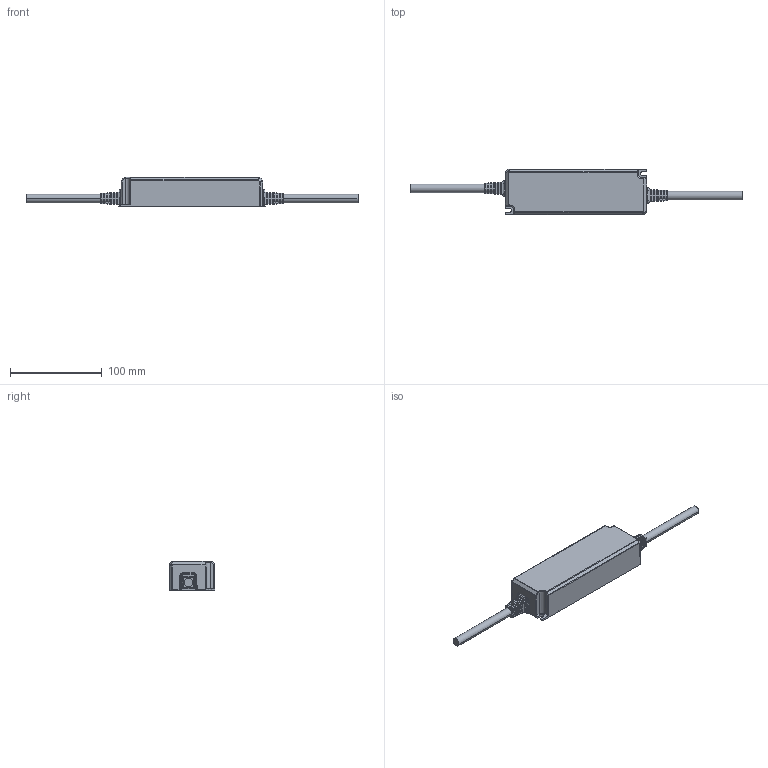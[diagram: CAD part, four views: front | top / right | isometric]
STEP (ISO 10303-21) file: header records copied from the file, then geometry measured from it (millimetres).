
FILE_DESCRIPTION(('Creo Elements/Direct Modeling STEP Export'),'2;1');
FILE_NAME('3D_EDXe_175_24.040.stp','2019-12-18T11:40:11',(''),(''),'PTC Creo Elements/Direct Modeling STEP processor for AP214 (Solid Model)','PTC Creo Elements/Direct Modeling 19.0E 27-Jun-2016 (C) Parametric Technology GmbH','');
FILE_SCHEMA(('AUTOMOTIVE_DESIGN { 1 0 10303 214 1 1 1 1 }'));
Length unit declared in the file: millimetre
Products named in the file (2): K30_2
Assembly tree (1 placements, depth 2):
  K30_2
    K30_2
Bounding box: 362.6 x 50.03 x 32 mm (x, y, z)
Volume: 58359.7 mm3; surface area: 63924.7 mm2
Topology: 1 solids, 1 shells, 664 faces, 1932 edges, 1248 vertices
Faces by surface type: plane 448, cylinder 178, sphere 16, torus 10, cone 8, bspline 4
Entity records: 27139 total; most frequent: CARTESIAN_POINT 4730, ORIENTED_EDGE 3832, DIRECTION 3366, EDGE_CURVE 1916, VECTOR 1514, LINE 1514, VERTEX_POINT 1248, AXIS2_PLACEMENT_3D 926
